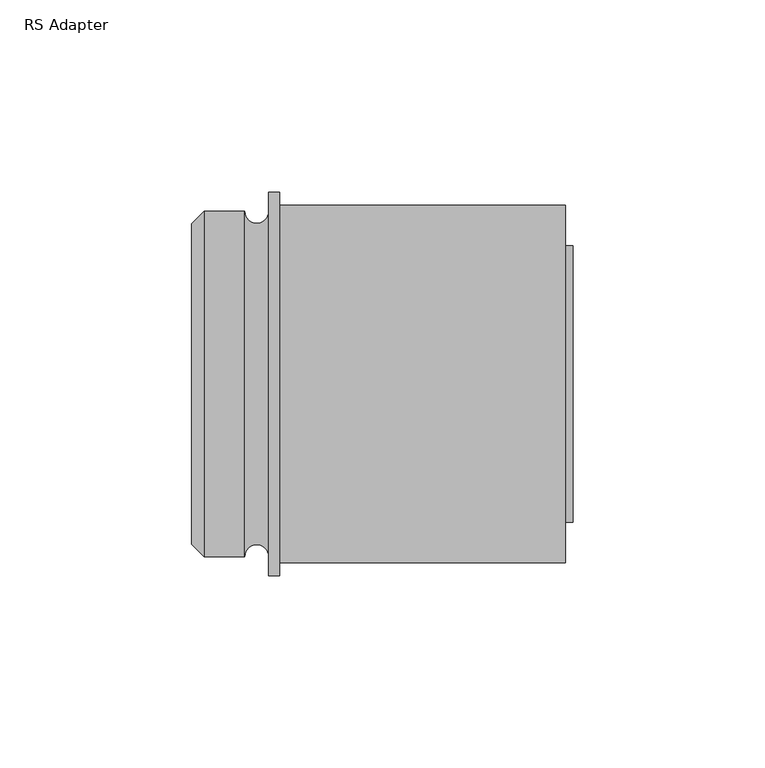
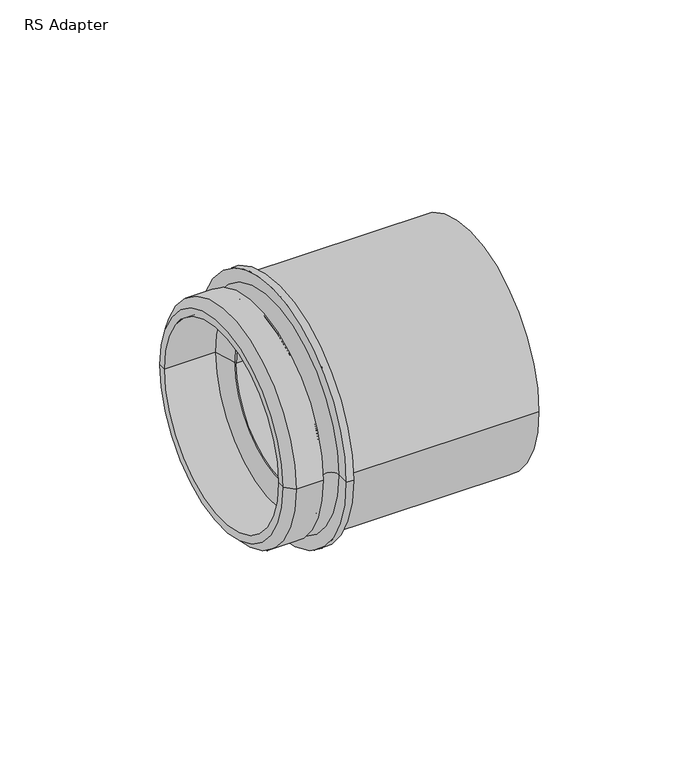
"""IFC4 building model written with IfcOpenShell, lengths in millimetres: pipe fitting geometry, RS Adapter : Superpipe RS Press Adapter."""

from ifc_helpers import new_model, si_unit, point, frame, origin, place, context, project, spatial, polyline, circle_curve, ellipse_curve, trimmed, source, transform, mapped, element, save
from ifc_brep_helpers import plane_surface, cylinder_surface, revolved_surface, advanced_brep


def rs_adapter_c6cd646c(model_context):
    return source(origin(), model_context, "Body", "AdvancedBrep", [
        advanced_brep(
        [(97.3, -46.5, 0.0), (97.3, 46.5, 0.0), (97.3, 45.0, 0.0), (97.3, -45.0, 0.0), (22.8, 45.0, 0.0), (22.8, -45.0, 0.0), (22.8, 46.5, 0.0), (22.8, -46.5, 0.0)],
        [
            (0, 1, circle_curve(frame((97.3, 0.0, 0.0), z_axis=(1.0, 0.0, 0.0), x_axis=(0.0, 1.0, 0.0)), 46.5)),
            (1, 2),
            (2, 3, circle_curve(frame((97.3, 0.0, 0.0), z_axis=(-1.0, 0.0, 0.0), x_axis=(0.0, 1.0, 0.0)), 45.0)),
            (3, 0),
            (2, 4),
            (4, 5, circle_curve(frame((22.8, 0.0, 0.0), z_axis=(-1.0, 0.0, 0.0), x_axis=(0.0, 1.0, 0.0)), 45.0)),
            (5, 3),
            (4, 6),
            (6, 7, circle_curve(frame((22.8, 0.0, 0.0), z_axis=(-1.0, 0.0, 0.0), x_axis=(0.0, 1.0, 0.0)), 46.5)),
            (7, 5),
            (6, 1),
            (0, 7),
            (6, 7, circle_curve(frame((22.8, 0.0, 0.0), z_axis=(1.0, 0.0, 0.0), x_axis=(0.0, 1.0, 0.0)), 46.5)),
            (0, 1, circle_curve(frame((97.3, 0.0, 0.0), z_axis=(-1.0, 0.0, 0.0), x_axis=(0.0, 1.0, 0.0)), 46.5)),
            (4, 5, circle_curve(frame((22.8, 0.0, 0.0), z_axis=(1.0, 0.0, 0.0), x_axis=(0.0, 1.0, 0.0)), 45.0)),
            (2, 3, circle_curve(frame((97.3, 0.0, 0.0), z_axis=(1.0, 0.0, 0.0), x_axis=(0.0, 1.0, 0.0)), 45.0)),
        ],
        [
            plane_surface(frame((97.3, 0.0, 0.0), z_axis=(1.0, 0.0, 0.0), x_axis=(0.0, 1.0, 0.0))),
            revolved_surface(polyline([(22.799999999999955, 45.0, 0.0), (97.29999999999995, 45.0, 0.0)]), (2034.5, 0.0, 0.0), (-1.0, 0.0, 0.0)),
            plane_surface(frame((22.8, 0.0, 0.0), z_axis=(-1.0, 0.0, 0.0), x_axis=(0.0, 1.0, 0.0))),
            cylinder_surface(frame((2034.5, 0.0, 0.0), z_axis=(-1.0, 0.0, 0.0), x_axis=(0.0, 1.0, 0.0)), 46.5),
        ],
        [
            (0, [[1, 2, 3, 4]]),
            (1, [[-3, 5, 6, 7]]),
            (2, [[-6, 8, 9, 10]]),
            (3, [[-9, 11, -1, 12]]),
            (3, [[13, -12, 14, -11]]),
            (2, [[15, -10, -13, -8]]),
            (1, [[16, -7, -15, -5]]),
            (0, [[-14, -4, -16, -2]]),
        ],
    ),
        advanced_brep(
        [(99.3, -36.0, 0.0), (99.3, 36.0, 0.0), (99.3, 29.5, 0.0), (99.3, -29.5, 0.0), (22.8, 29.5, 0.0), (22.8, -29.5, 0.0), (22.8, 36.0, 0.0), (22.8, -36.0, 0.0)],
        [
            (0, 1, circle_curve(frame((99.3, 0.0, 0.0), z_axis=(1.0, 0.0, 0.0), x_axis=(0.0, 1.0, 0.0)), 36.0)),
            (1, 2),
            (2, 3, circle_curve(frame((99.3, 0.0, 0.0), z_axis=(-1.0, 0.0, 0.0), x_axis=(0.0, 1.0, 0.0)), 29.5)),
            (3, 0),
            (2, 4),
            (4, 5, circle_curve(frame((22.8, 0.0, 0.0), z_axis=(-1.0, 0.0, 0.0), x_axis=(0.0, 1.0, 0.0)), 29.5)),
            (5, 3),
            (4, 6),
            (6, 7, circle_curve(frame((22.8, 0.0, 0.0), z_axis=(-1.0, 0.0, 0.0), x_axis=(0.0, 1.0, 0.0)), 36.0)),
            (7, 5),
            (6, 1),
            (0, 7),
            (6, 7, circle_curve(frame((22.8, 0.0, 0.0), z_axis=(1.0, 0.0, 0.0), x_axis=(0.0, 1.0, 0.0)), 36.0)),
            (0, 1, circle_curve(frame((99.3, 0.0, 0.0), z_axis=(-1.0, 0.0, 0.0), x_axis=(0.0, 1.0, 0.0)), 36.0)),
            (4, 5, circle_curve(frame((22.8, 0.0, 0.0), z_axis=(1.0, 0.0, 0.0), x_axis=(0.0, 1.0, 0.0)), 29.5)),
            (2, 3, circle_curve(frame((99.3, 0.0, 0.0), z_axis=(1.0, 0.0, 0.0), x_axis=(0.0, 1.0, 0.0)), 29.5)),
        ],
        [
            plane_surface(frame((99.3, 0.0, 0.0), z_axis=(1.0, 0.0, 0.0), x_axis=(0.0, 1.0, 0.0))),
            revolved_surface(polyline([(22.799999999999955, 29.5, 0.0), (99.29999999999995, 29.5, 0.0)]), (2034.5, 0.0, 0.0), (-1.0, 0.0, 0.0)),
            plane_surface(frame((22.8, 0.0, 0.0), z_axis=(-1.0, 0.0, 0.0), x_axis=(0.0, 1.0, 0.0))),
            cylinder_surface(frame((2034.5, 0.0, 0.0), z_axis=(-1.0, 0.0, 0.0), x_axis=(0.0, 1.0, 0.0)), 36.0),
        ],
        [
            (0, [[1, 2, 3, 4]]),
            (1, [[-3, 5, 6, 7]]),
            (2, [[-6, 8, 9, 10]]),
            (3, [[-9, 11, -1, 12]]),
            (3, [[13, -12, 14, -11]]),
            (2, [[15, -10, -13, -8]]),
            (1, [[16, -7, -15, -5]]),
            (0, [[-14, -4, -16, -2]]),
        ],
    ),
        advanced_brep(
        [(20.0, -50.0, 0.0), (20.0, 50.0, 0.0), (22.8, 50.0, 0.0), (22.8, -50.0, 0.0), (20.0, -45.0, 0.0), (20.0, 45.0, 0.0), (22.8, 29.5, 0.0), (22.8, -29.5, 0.0), (0.0, -41.8, 0.0), (0.0, 41.8, 0.0), (3.2, 45.0, 0.0), (3.2, -45.0, 0.0), (0.0, -38.8, 0.0), (0.0, 38.8, 0.0), (13.8, -45.0, 0.0), (13.8, 45.0, 0.0), (20.0, -38.8, 0.0), (20.0, 38.8, 0.0)],
        [
            (0, 1, circle_curve(frame((20.0, 0.0, 0.0), z_axis=(1.0, 0.0, 0.0), x_axis=(0.0, 1.0, 0.0)), 50.0)),
            (1, 2),
            (2, 3, circle_curve(frame((22.8, 0.0, 0.0), z_axis=(-1.0, 0.0, 0.0), x_axis=(0.0, 1.0, 0.0)), 50.0)),
            (3, 0),
            (1, 0, circle_curve(frame((20.0, 0.0, 0.0), z_axis=(1.0, 0.0, 0.0), x_axis=(0.0, 1.0, 0.0)), 50.0)),
            (3, 2, circle_curve(frame((22.8, 0.0, 0.0), z_axis=(-1.0, 0.0, 0.0), x_axis=(0.0, 1.0, 0.0)), 50.0)),
            (0, 4),
            (4, 5, circle_curve(frame((20.0, 0.0, 0.0), z_axis=(1.0, 0.0, 0.0), x_axis=(0.0, 1.0, 0.0)), 45.0)),
            (5, 1),
            (5, 4, circle_curve(frame((20.0, 0.0, 0.0), z_axis=(1.0, 0.0, 0.0), x_axis=(0.0, 1.0, 0.0)), 45.0)),
            (2, 6),
            (6, 7, circle_curve(frame((22.8, 0.0, 0.0), z_axis=(-1.0, 0.0, 0.0), x_axis=(0.0, 1.0, 0.0)), 29.5)),
            (7, 3),
            (7, 6, circle_curve(frame((22.8, 0.0, 0.0), z_axis=(-1.0, 0.0, 0.0), x_axis=(0.0, 1.0, 0.0)), 29.5)),
            (8, 9, circle_curve(frame((0.0, 0.0, 0.0), z_axis=(1.0, 0.0, 0.0), x_axis=(0.0, 1.0, 0.0)), 41.8)),
            (9, 10),
            (10, 11, circle_curve(frame((3.2, 0.0, 0.0), z_axis=(-1.0, 0.0, 0.0), x_axis=(0.0, 1.0, 0.0)), 45.0)),
            (11, 8),
            (9, 8, circle_curve(frame((0.0, 0.0, 0.0), z_axis=(1.0, 0.0, 0.0), x_axis=(0.0, 1.0, 0.0)), 41.8)),
            (11, 10, circle_curve(frame((3.2, 0.0, 0.0), z_axis=(-1.0, 0.0, 0.0), x_axis=(0.0, 1.0, 0.0)), 45.0)),
            (8, 12),
            (12, 13, circle_curve(frame((0.0, 0.0, 0.0), z_axis=(1.0, 0.0, 0.0), x_axis=(0.0, 1.0, 0.0)), 38.8)),
            (13, 9),
            (13, 12, circle_curve(frame((0.0, 0.0, 0.0), z_axis=(1.0, 0.0, 0.0), x_axis=(0.0, 1.0, 0.0)), 38.8)),
            (4, 14, circle_curve(frame((16.9, -45.0, 0.0), z_axis=(0.0, 0.0, 1.0), x_axis=(1.0, 0.0, 0.0)), 3.1)),
            (14, 15, circle_curve(frame((13.8, 0.0, 0.0), z_axis=(1.0, 0.0, 0.0), x_axis=(0.0, 1.0, 0.0)), 45.0)),
            (15, 5, circle_curve(frame((16.9, 45.0, 0.0), z_axis=(0.0, 0.0, 1.0), x_axis=(1.0, 0.0, 0.0)), 3.1)),
            (15, 14, circle_curve(frame((13.8, 0.0, 0.0), z_axis=(1.0, 0.0, 0.0), x_axis=(0.0, 1.0, 0.0)), 45.0)),
            (10, 15),
            (14, 11),
            (12, 16),
            (16, 17, circle_curve(frame((20.0, 0.0, 0.0), z_axis=(1.0, 0.0, 0.0), x_axis=(0.0, 1.0, 0.0)), 38.8)),
            (17, 13),
            (17, 16, circle_curve(frame((20.0, 0.0, 0.0), z_axis=(1.0, 0.0, 0.0), x_axis=(0.0, 1.0, 0.0)), 38.8)),
            (16, 7),
            (6, 17),
        ],
        [
            cylinder_surface(frame((2019.3, 0.0, 0.0), z_axis=(-1.0, 0.0, 0.0), x_axis=(0.0, 1.0, 0.0)), 50.0),
            plane_surface(frame((20.0, 0.0, 0.0), z_axis=(-1.0, 0.0, 0.0), x_axis=(0.0, 1.0, 0.0))),
            plane_surface(frame((22.8, 0.0, 0.0), z_axis=(1.0, 0.0, 0.0), x_axis=(0.0, 1.0, 0.0))),
            revolved_surface(polyline([(3.2, 45.0, 0.0), (0.0, 41.8, 0.0)]), (2019.3, 0.0, 0.0), (-1.0, 0.0, 0.0)),
            plane_surface(frame((0.0, 0.0, 0.0), z_axis=(-1.0, 0.0, 0.0), x_axis=(0.0, 1.0, 0.0))),
            revolved_surface(trimmed(ellipse_curve(frame((16.9, 45.0, 0.0), z_axis=(0.0, 0.0, -1.0), x_axis=(1.0, 0.0, 0.0)), 3.1, 3.1), [point((20.0, 45.0, 0.0))], [point((13.8, 45.0, 0.0))], True, "CARTESIAN"), (2019.3, 0.0, 0.0), (-1.0, 0.0, 0.0)),
            cylinder_surface(frame((2019.3, 0.0, 0.0), z_axis=(-1.0, 0.0, 0.0), x_axis=(0.0, 1.0, 0.0)), 45.0),
            revolved_surface(polyline([(0.0, 38.8, 0.0), (20.0, 38.8, 0.0)]), (2045.5, 0.0, 0.0), (-1.0, 0.0, 0.0)),
            revolved_surface(polyline([(20.0, 38.8, 0.0), (22.8, 29.5, 0.0)]), (2045.5, 0.0, 0.0), (-1.0, 0.0, 0.0)),
        ],
        [
            (0, [[1, 2, 3, 4]]),
            (0, [[-2, 5, -4, 6]]),
            (1, [[-1, 7, 8, 9]]),
            (1, [[-5, -9, 10, -7]]),
            (2, [[-3, 11, 12, 13]]),
            (2, [[-6, -13, 14, -11]]),
            (3, [[15, 16, 17, 18]]),
            (3, [[-16, 19, -18, 20]]),
            (4, [[-15, 21, 22, 23]]),
            (4, [[-19, -23, 24, -21]]),
            (5, [[-8, 25, 26, 27]]),
            (5, [[-10, -27, 28, -25]]),
            (6, [[-17, 29, -26, 30]]),
            (6, [[-20, -30, -28, -29]]),
            (7, [[31, 32, 33, -22]]),
            (7, [[-31, -24, -33, 34]]),
            (8, [[-32, 35, -12, 36]]),
            (8, [[-34, -36, -14, -35]]),
        ],
    ),
    ])


if __name__ == "__main__":
    model = new_model("IFC4")
    model_context = context("Model", 3, world=origin())
    ifc_project = project(units=[si_unit("LENGTHUNIT", "METRE", prefix="MILLI")], contexts=[model_context])
    site = spatial("IfcSite", under=ifc_project)
    building = spatial("IfcBuilding", under=site)
    placement = place(None, origin())
    rs_adapter_shape = rs_adapter_c6cd646c(model_context)
    element("IfcPipeFitting", 1, ObjectType="RS Adapter : Superpipe RS Press Adapter", at=placement, inside=building, context=model_context, shape_type="MappedRepresentation", body=[
        mapped(rs_adapter_shape, transform((0.0, 0.0, 0.0), x_axis=(1.0, 0.0, 0.0), y_axis=(0.0, 1.0, 0.0), z_axis=(0.0, 0.0, 1.0))),
    ])
    save(model, "model.ifc")
